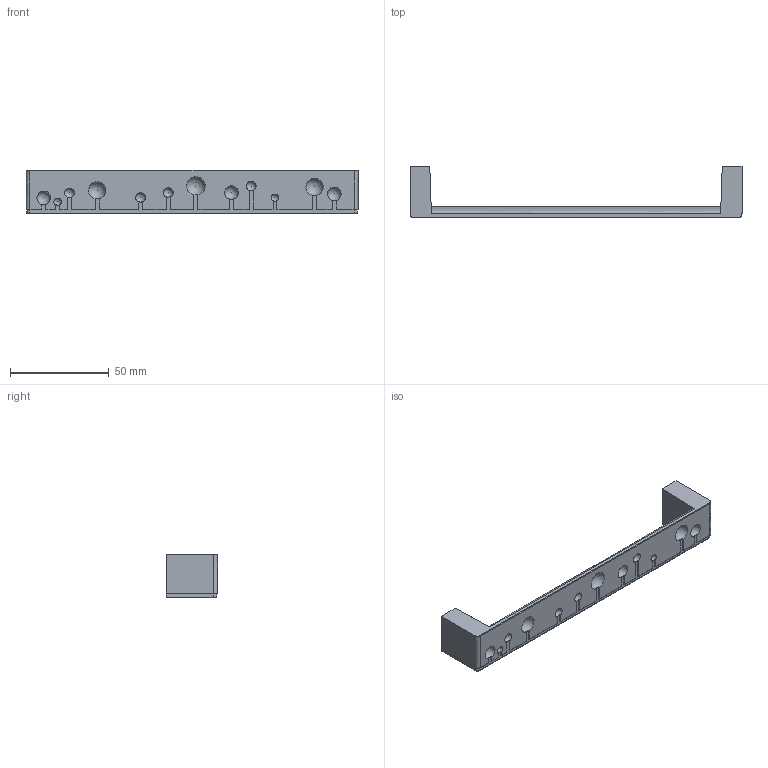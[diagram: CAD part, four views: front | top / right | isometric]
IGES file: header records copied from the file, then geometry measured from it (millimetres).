
Start section: Data from Parasolid IGES Translator 15.0.47, Copyright(c) 2006 Siemens P LM Software. All Rights Reserved.
Global section: file name: 9132305.igs; native system:  By UGS Corp.; preprocessor: XPlus GENERIC/IGES 3.0; author: Noname; organization: Noname; date: 20140122.102719; units: millimetre
Bounding box: 168 x 26 x 22 mm (x, y, z)
Surface area: 11844.9 mm2 (no closed solid volume)
Topology: 0 solids, 0 shells, 89 faces, 570 edges, 556 vertices
Faces by surface type: extrusion 51, revolution 38
